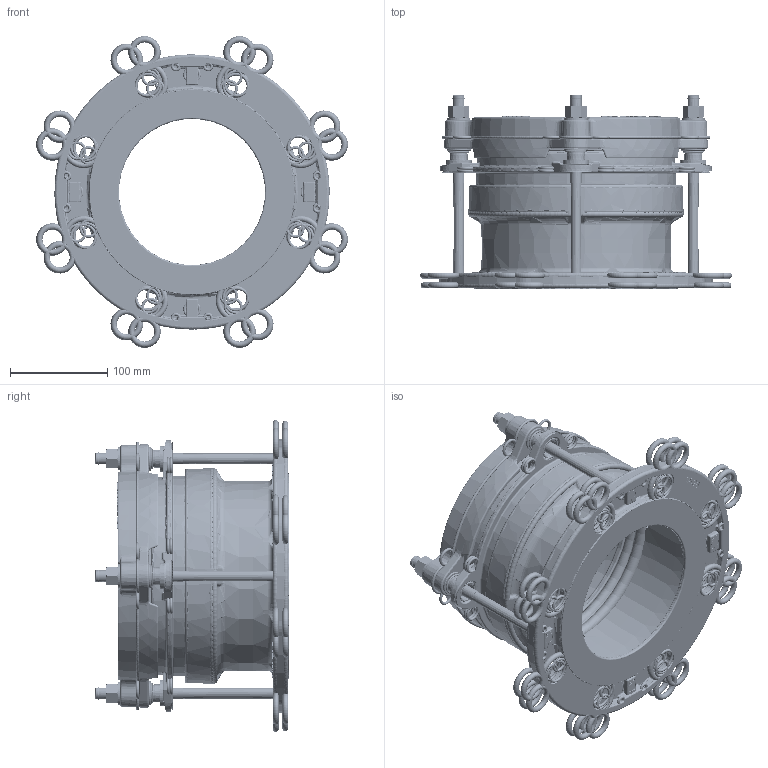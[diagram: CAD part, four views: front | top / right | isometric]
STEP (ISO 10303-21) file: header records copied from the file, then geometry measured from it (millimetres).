
FILE_DESCRIPTION((''),'2;1');
FILE_NAME('13383_8','2014-12-15T',('rburgess'),('Viking Johnson'),'PRO/ENGINEER BY PARAMETRIC TECHNOLOGY CORPORATION, 2006020','PRO/ENGINEER BY PARAMETRIC TECHNOLOGY CORPORATION, 2006020','');
FILE_SCHEMA(('CONFIG_CONTROL_DESIGN'));
Products named in the file (1): 13383_8
Bounding box: 320.23 x 199.9 x 320.23 mm (x, y, z)
Surface area: 1389450.1 mm2 (no closed solid volume)
Topology: 0 solids, 0 shells, 5265 faces, 27954 edges, 27581 vertices
Faces by surface type: bspline 4546, torus 627, sphere 92
Entity records: 388229 total; most frequent: CARTESIAN_POINT 139792, DIRECTION 39387, TRIMMED_CURVE 35204, VECTOR 32459, LINE 32459, DEFINITIONAL_REPRESENTATION 27192, PCURVE 27192, COMPOSITE_CURVE_SEGMENT 27192
